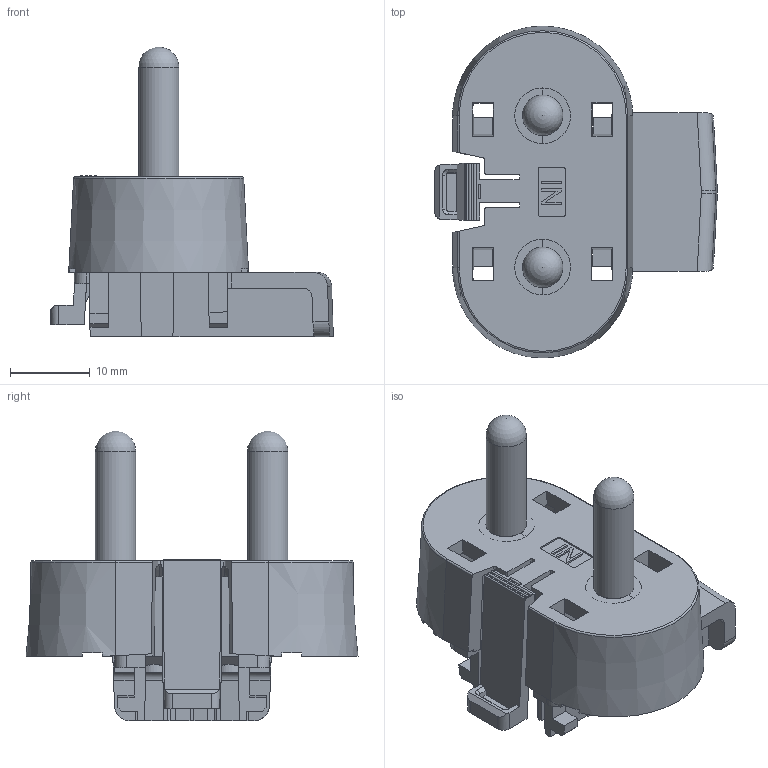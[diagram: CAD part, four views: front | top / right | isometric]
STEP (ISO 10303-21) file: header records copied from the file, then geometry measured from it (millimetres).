
FILE_DESCRIPTION(/* description */ (''),/* implementation_level */ '2;1');
FILE_NAME(/* name */ 'C:\作業區\插頭\5OE0004401H8.stp',/* time_stamp */ '2019-11-06T17:07:24+08:00',/* author */ ('user'),/* organization */ (''),/* preprocessor_version */ 'ST-DEVELOPER v16.1',/* originating_system */ 'Autodesk Inventor 2016',/* authorisation */ '');
FILE_SCHEMA (('AUTOMOTIVE_DESIGN { 1 0 10303 214 3 1 1 }'));
Length unit declared in the file: millimetre
Products named in the file (6): MANIFOLD_SOLID_BREP; PRT0004_1; PRT0005_1; PRT0006_in1; ASM0004_india PIN module; 5OE0004401H8
Assembly tree (5 placements, depth 3):
  5OE0004401H8
    MANIFOLD_SOLID_BREP
    ASM0004_india PIN module
      PRT0004_1
      PRT0005_1
      PRT0006_in1
Bounding box: 35.51 x 41.7 x 36.4 mm (x, y, z)
Volume: 7196.2 mm3; surface area: 9850 mm2
Topology: 4 solids, 4 shells, 444 faces, 1314 edges, 868 vertices
Faces by surface type: plane 275, cylinder 85, bspline 72, cone 8, torus 2, sphere 2
Full cylindrical faces by diameter (mm): 1.35 x4, 2 x8, 4 x6, 5.08 x6, 7 x4
Entity records: 22976 total; most frequent: CARTESIAN_POINT 11713, ORIENTED_EDGE 2518, DIRECTION 2063, EDGE_CURVE 1259, VERTEX_POINT 844, LINE 773, VECTOR 773, AXIS2_PLACEMENT_3D 645
